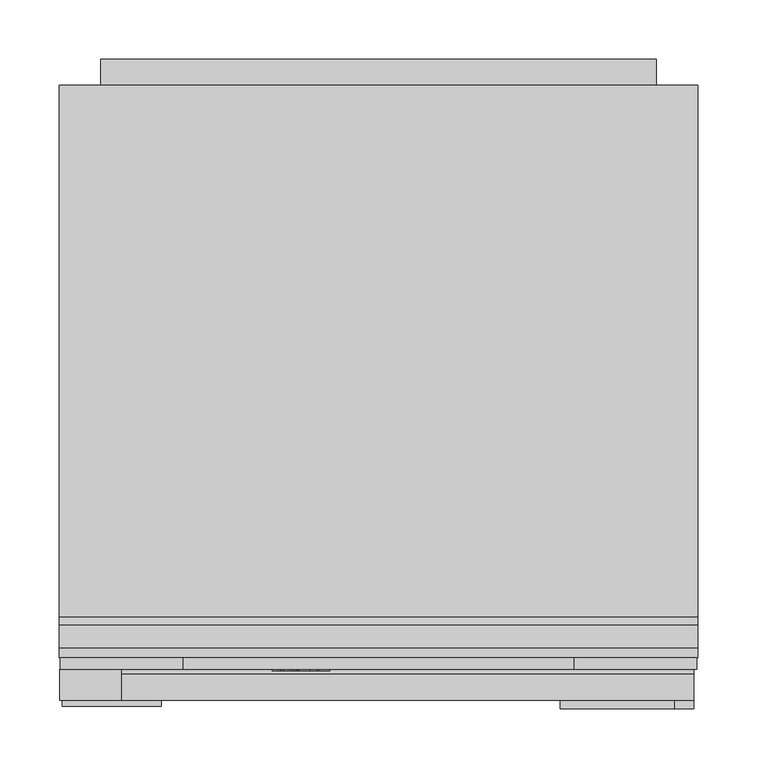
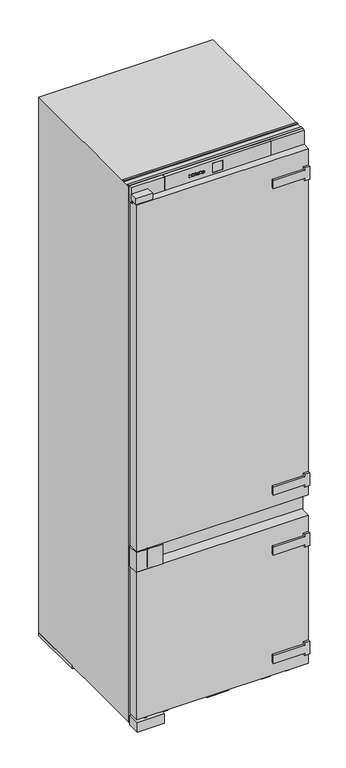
"""IFC4 building model written with IfcOpenShell, lengths in millimetres: proxy geometry, 12445030_CH_KF7731D_LI : 38773106_CH_12445030_KF7731D_LI."""

from ifc_helpers import new_model, si_unit, point, frame, frame_2d, origin, origin_with_axes, place, context, project, spatial, polyline, circle_curve, ellipse_curve, trimmed, segment, composite_curve, outline, extrude, faceted_brep, source, transform, mapped, element, save
from ifc_brep_helpers import plane_surface, cylinder_surface, revolved_surface, extruded_surface, advanced_brep


def specialty_equipment_c5a7a901(model_context):
    return source(origin(), model_context, "Body", "SolidModel", [
        advanced_brep(
        [(-46.64, 32.0, 1742.896), (-46.64, 32.0, 1743.704), (-41.288, 32.0, 1743.704), (-50.6, 32.0, 1743.704), (-48.4, 32.0, 1741.0), (-41.424, 32.0, 1742.896), (-43.84, 32.0, 1742.896), (-45.744, 32.0, 1742.0), (-46.64, 32.0, 1744.728), (-46.64, 32.0, 1745.6), (-45.272, 32.0, 1745.6), (-45.272, 32.0, 1744.728), (-46.64, 33.0, 1742.896), (-45.744, 33.0, 1742.0), (-43.84, 33.0, 1742.896), (-41.424, 33.0, 1742.896), (-48.4, 33.0, 1741.0), (-50.6, 33.0, 1743.704), (-41.288, 33.0, 1743.704), (-46.64, 33.0, 1743.704), (-46.64, 33.0, 1744.728), (-45.272, 33.0, 1744.728), (-45.272, 33.0, 1745.6), (-46.64, 33.0, 1745.6)],
        [
            (0, 1),
            (1, 2),
            (2, 3, ellipse_curve(frame((-45.944, 32.0, 1743.704), z_axis=(0.0, -1.0, 0.0), x_axis=(-1.0, 0.0, 0.0)), 4.656, 3.848)),
            (3, 4, circle_curve(frame((-47.5039564, 32.0, 1743.976), z_axis=(0.0, -1.0, 0.0), x_axis=(0.0, 0.0, -1.0)), 3.1079688)),
            (4, 5, circle_curve(frame((-46.0372064, 32.0, 1746.088), z_axis=(0.0, -1.0, 0.0), x_axis=(0.0, 0.0, -1.0)), 5.6098607)),
            (5, 6),
            (6, 7, circle_curve(frame((-45.3529412, 32.0, 1743.64), z_axis=(0.0, 1.0, 0.0), x_axis=(0.0, 0.0, -1.0)), 1.6859795)),
            (7, 0, circle_curve(frame((-45.744, 32.0, 1742.896), z_axis=(0.0, 1.0, 0.0), x_axis=(0.0, 0.0, -1.0)), 0.896)),
            (8, 9),
            (9, 10, circle_curve(frame((-45.956, 32.0, 1745.6), z_axis=(0.0, 1.0, 0.0), x_axis=(0.0, 0.0, -1.0)), 0.684)),
            (10, 11),
            (11, 8),
            (12, 13, circle_curve(frame((-45.744, 33.0, 1742.896), z_axis=(0.0, -1.0, 0.0), x_axis=(0.0, 0.0, -1.0)), 0.896)),
            (13, 14, circle_curve(frame((-45.3529412, 33.0, 1743.64), z_axis=(0.0, -1.0, 0.0), x_axis=(0.0, 0.0, -1.0)), 1.6859795)),
            (14, 15),
            (15, 16, circle_curve(frame((-46.0372064, 33.0, 1746.088), z_axis=(0.0, 1.0, 0.0), x_axis=(0.0, 0.0, -1.0)), 5.6098607)),
            (16, 17, circle_curve(frame((-47.5039564, 33.0, 1743.976), z_axis=(0.0, 1.0, 0.0), x_axis=(0.0, 0.0, -1.0)), 3.1079688)),
            (17, 18, ellipse_curve(frame((-45.944, 33.0, 1743.704), z_axis=(0.0, 1.0, 0.0), x_axis=(-1.0, 0.0, 0.0)), 4.656, 3.848)),
            (18, 19),
            (19, 12),
            (20, 21),
            (21, 22),
            (22, 23, circle_curve(frame((-45.956, 33.0, 1745.6), z_axis=(0.0, -1.0, 0.0), x_axis=(0.0, 0.0, -1.0)), 0.684)),
            (23, 20),
            (0, 12),
            (19, 1),
            (18, 2),
            (5, 15),
            (14, 6),
            (17, 3),
            (13, 7),
            (16, 4),
            (8, 20),
            (23, 9),
            (22, 10),
            (21, 11),
        ],
        [
            plane_surface(frame((-46.64, 32.0, 1743.704), z_axis=(0.0, -1.0, 0.0), x_axis=(0.0, 0.0, 1.0))),
            plane_surface(frame((-46.64, 33.0, 1743.704), z_axis=(0.0, 1.0, 0.0), x_axis=(0.0, 0.0, -1.0))),
            plane_surface(frame((-46.64, 32.0, 1742.896), z_axis=(1.0, 0.0, 0.0), x_axis=(0.0, 1.0, 0.0))),
            plane_surface(frame((-46.64, 32.0, 1743.704), z_axis=(0.0, 0.0, -1.0), x_axis=(0.0, 1.0, 0.0))),
            plane_surface(frame((-41.424, 32.0, 1742.896), z_axis=(0.0, 0.0, 1.0), x_axis=(0.0, 1.0, 0.0))),
            extruded_surface(trimmed(ellipse_curve(frame((-45.944, 34.0, 1743.704), z_axis=(0.0, -1.0, 0.0), x_axis=(-1.0, 0.0, 0.0)), 4.656, 3.848), [point((-41.288, 34.0, 1743.704))], [point((-50.6, 34.0, 1743.704))], True, "CARTESIAN"), (0.0, -1.0, 0.0), 1.0),
            revolved_surface(polyline([(-45.3529412, 33.0, 1741.9540205), (-45.3529412, 32.0, 1741.9540205)]), (-45.3529412, 33.0, 1743.64), (0.0, 1.0, 0.0)),
            revolved_surface(polyline([(-45.744, 33.0, 1742.0), (-45.744, 32.0, 1742.0)]), (-45.744, 33.0, 1742.896), (0.0, 1.0, 0.0)),
            cylinder_surface(frame((-47.5039564, 33.0, 1743.976), z_axis=(0.0, -1.0, 0.0), x_axis=(0.0, 0.0, -1.0)), 3.1079688),
            cylinder_surface(frame((-46.0372064, 33.0, 1746.088), z_axis=(0.0, -1.0, 0.0), x_axis=(0.0, 0.0, -1.0)), 5.6098607),
            plane_surface(frame((-46.64, 32.0, 1744.728), z_axis=(1.0, 0.0, 0.0), x_axis=(0.0, 1.0, 0.0))),
            revolved_surface(polyline([(-45.956, 33.0, 1744.916), (-45.956, 32.0, 1744.916)]), (-45.956, 33.0, 1745.6), (0.0, 1.0, 0.0)),
            plane_surface(frame((-45.272, 32.0, 1745.6), z_axis=(-1.0, 0.0, 0.0), x_axis=(0.0, 1.0, 0.0))),
            plane_surface(frame((-45.272, 32.0, 1744.728), z_axis=(0.0, 0.0, 1.0), x_axis=(0.0, 1.0, 0.0))),
        ],
        [
            (0, [[1, 2, 3, 4, 5, 6, 7, 8], [9, 10, 11, 12]]),
            (1, [[13, 14, 15, 16, 17, 18, 19, 20], [21, 22, 23, 24]]),
            (2, [[-1, 25, -20, 26]]),
            (3, [[-2, -26, -19, 27]]),
            (4, [[-6, 28, -15, 29]]),
            (5, [[-3, -27, -18, 30]]),
            (6, [[-7, -29, -14, 31]]),
            (7, [[-8, -31, -13, -25]]),
            (8, [[-4, -30, -17, 32]]),
            (9, [[-5, -32, -16, -28]]),
            (10, [[-9, 33, -24, 34]]),
            (11, [[-10, -34, -23, 35]]),
            (12, [[-11, -35, -22, 36]]),
            (13, [[-12, -36, -21, -33]]),
        ],
    ),
        advanced_brep(
        [(-63.336, 32.0, 1742.896), (-63.336, 32.0, 1743.704), (-57.984, 32.0, 1743.704), (-67.296, 32.0, 1743.704), (-65.096, 32.0, 1741.0), (-58.12, 32.0, 1742.896), (-60.536, 32.0, 1742.896), (-62.44, 32.0, 1742.0), (-63.336, 32.0, 1744.728), (-63.336, 32.0, 1745.6), (-61.968, 32.0, 1745.6), (-61.968, 32.0, 1744.728), (-63.336, 33.0, 1742.896), (-62.44, 33.0, 1742.0), (-60.536, 33.0, 1742.896), (-58.12, 33.0, 1742.896), (-65.096, 33.0, 1741.0), (-67.296, 33.0, 1743.704), (-57.984, 33.0, 1743.704), (-63.336, 33.0, 1743.704), (-63.336, 33.0, 1744.728), (-61.968, 33.0, 1744.728), (-61.968, 33.0, 1745.6), (-63.336, 33.0, 1745.6)],
        [
            (0, 1),
            (1, 2),
            (2, 3, ellipse_curve(frame((-62.64, 32.0, 1743.704), z_axis=(0.0, -1.0, 0.0), x_axis=(-1.0, 0.0, 0.0)), 4.656, 3.848)),
            (3, 4, circle_curve(frame((-64.1999564, 32.0, 1743.976), z_axis=(0.0, -1.0, 0.0), x_axis=(0.0, 0.0, -1.0)), 3.1079688)),
            (4, 5, circle_curve(frame((-62.7332064, 32.0, 1746.088), z_axis=(0.0, -1.0, 0.0), x_axis=(0.0, 0.0, -1.0)), 5.6098607)),
            (5, 6),
            (6, 7, circle_curve(frame((-62.0489412, 32.0, 1743.64), z_axis=(0.0, 1.0, 0.0), x_axis=(0.0, 0.0, -1.0)), 1.6859795)),
            (7, 0, circle_curve(frame((-62.44, 32.0, 1742.896), z_axis=(0.0, 1.0, 0.0), x_axis=(0.0, 0.0, -1.0)), 0.896)),
            (8, 9),
            (9, 10, circle_curve(frame((-62.652, 32.0, 1745.6), z_axis=(0.0, 1.0, 0.0), x_axis=(0.0, 0.0, -1.0)), 0.684)),
            (10, 11),
            (11, 8),
            (12, 13, circle_curve(frame((-62.44, 33.0, 1742.896), z_axis=(0.0, -1.0, 0.0), x_axis=(0.0, 0.0, -1.0)), 0.896)),
            (13, 14, circle_curve(frame((-62.0489412, 33.0, 1743.64), z_axis=(0.0, -1.0, 0.0), x_axis=(0.0, 0.0, -1.0)), 1.6859795)),
            (14, 15),
            (15, 16, circle_curve(frame((-62.7332064, 33.0, 1746.088), z_axis=(0.0, 1.0, 0.0), x_axis=(0.0, 0.0, -1.0)), 5.6098607)),
            (16, 17, circle_curve(frame((-64.1999564, 33.0, 1743.976), z_axis=(0.0, 1.0, 0.0), x_axis=(0.0, 0.0, -1.0)), 3.1079688)),
            (17, 18, ellipse_curve(frame((-62.64, 33.0, 1743.704), z_axis=(0.0, 1.0, 0.0), x_axis=(-1.0, 0.0, 0.0)), 4.656, 3.848)),
            (18, 19),
            (19, 12),
            (20, 21),
            (21, 22),
            (22, 23, circle_curve(frame((-62.652, 33.0, 1745.6), z_axis=(0.0, -1.0, 0.0), x_axis=(0.0, 0.0, -1.0)), 0.684)),
            (23, 20),
            (0, 12),
            (19, 1),
            (18, 2),
            (5, 15),
            (14, 6),
            (17, 3),
            (13, 7),
            (16, 4),
            (8, 20),
            (23, 9),
            (22, 10),
            (21, 11),
        ],
        [
            plane_surface(frame((-63.336, 32.0, 1743.704), z_axis=(0.0, -1.0, 0.0), x_axis=(0.0, 0.0, 1.0))),
            plane_surface(frame((-63.336, 33.0, 1743.704), z_axis=(0.0, 1.0, 0.0), x_axis=(0.0, 0.0, -1.0))),
            plane_surface(frame((-63.336, 32.0, 1742.896), z_axis=(1.0, 0.0, 0.0), x_axis=(0.0, 1.0, 0.0))),
            plane_surface(frame((-63.336, 32.0, 1743.704), z_axis=(0.0, 0.0, -1.0), x_axis=(0.0, 1.0, 0.0))),
            plane_surface(frame((-58.12, 32.0, 1742.896), z_axis=(0.0, 0.0, 1.0), x_axis=(0.0, 1.0, 0.0))),
            extruded_surface(trimmed(ellipse_curve(frame((-62.64, 34.0, 1743.704), z_axis=(0.0, -1.0, 0.0), x_axis=(-1.0, 0.0, 0.0)), 4.656, 3.848), [point((-57.984, 34.0, 1743.704))], [point((-67.296, 34.0, 1743.704))], True, "CARTESIAN"), (0.0, -1.0, 0.0), 1.0),
            revolved_surface(polyline([(-62.0489412, 33.0, 1741.9540205), (-62.0489412, 32.0, 1741.9540205)]), (-62.0489412, 33.0, 1743.64), (0.0, 1.0, 0.0)),
            revolved_surface(polyline([(-62.44, 33.0, 1742.0), (-62.44, 32.0, 1742.0)]), (-62.44, 33.0, 1742.896), (0.0, 1.0, 0.0)),
            cylinder_surface(frame((-64.1999564, 33.0, 1743.976), z_axis=(0.0, -1.0, 0.0), x_axis=(0.0, 0.0, -1.0)), 3.1079688),
            cylinder_surface(frame((-62.7332064, 33.0, 1746.088), z_axis=(0.0, -1.0, 0.0), x_axis=(0.0, 0.0, -1.0)), 5.6098607),
            plane_surface(frame((-63.336, 32.0, 1744.728), z_axis=(1.0, 0.0, 0.0), x_axis=(0.0, 1.0, 0.0))),
            revolved_surface(polyline([(-62.652, 33.0, 1744.916), (-62.652, 32.0, 1744.916)]), (-62.652, 33.0, 1745.6), (0.0, 1.0, 0.0)),
            plane_surface(frame((-61.968, 32.0, 1745.6), z_axis=(-1.0, 0.0, 0.0), x_axis=(0.0, 1.0, 0.0))),
            plane_surface(frame((-61.968, 32.0, 1744.728), z_axis=(0.0, 0.0, 1.0), x_axis=(0.0, 1.0, 0.0))),
        ],
        [
            (0, [[1, 2, 3, 4, 5, 6, 7, 8], [9, 10, 11, 12]]),
            (1, [[13, 14, 15, 16, 17, 18, 19, 20], [21, 22, 23, 24]]),
            (2, [[-1, 25, -20, 26]]),
            (3, [[-2, -26, -19, 27]]),
            (4, [[-6, 28, -15, 29]]),
            (5, [[-3, -27, -18, 30]]),
            (6, [[-7, -29, -14, 31]]),
            (7, [[-8, -31, -13, -25]]),
            (8, [[-4, -30, -17, 32]]),
            (9, [[-5, -32, -16, -28]]),
            (10, [[-9, 33, -24, 34]]),
            (11, [[-10, -34, -23, 35]]),
            (12, [[-11, -35, -22, 36]]),
            (13, [[-12, -36, -21, -33]]),
        ],
    ),
        extrude(outline(polyline([(1748.528, -72.08), (1747.232, -71.472), (1748.496, -68.76), (1749.792, -69.36), (1748.528, -72.08)])), frame((0.0, 32.0, 0.0), z_axis=(0.0, 1.0, 0.0), x_axis=(0.0, 0.0, 1.0)), (0.0, 0.0, 1.0), 1.0),
        extrude(outline(polyline([(1747.056, -74.056), (1745.624, -74.056), (1745.624, -73.104), (1742.344, -73.104), (1742.344, -74.056), (1741.0, -74.056), (1741.0, -67.744), (1742.344, -67.744), (1742.344, -68.672), (1747.056, -68.672), (1747.056, -74.056)])), frame((0.0, 32.0, 0.0), z_axis=(0.0, 1.0, 0.0), x_axis=(0.0, 0.0, 1.0)), (0.0, 0.0, 1.0), 1.0),
        extrude(outline(polyline([(1747.696, -57.536), (1747.696, -56.576), (1742.344, -56.576), (1742.344, -57.536), (1741.0, -57.536), (1741.0, -51.048), (1742.344, -51.048), (1742.344, -52.032), (1749.0, -52.032), (1749.0, -57.536), (1747.696, -57.536)])), frame((0.0, 32.0, 0.0), z_axis=(0.0, 1.0, 0.0), x_axis=(0.0, 0.0, 1.0)), (0.0, 0.0, 1.0), 1.0),
        extrude(outline(polyline([(1747.696, -90.0), (1747.696, -89.032), (1742.344, -89.032), (1742.344, -90.0), (1741.0, -90.0), (1741.0, -86.48), (1742.344, -86.48), (1742.344, -87.44), (1745.7471247, -87.44), (1741.0, -83.864), (1745.8152223, -80.272), (1742.344, -80.272), (1742.344, -81.256), (1741.0, -81.256), (1741.0, -74.872), (1742.344, -74.872), (1742.344, -75.888), (1747.696, -75.888), (1747.696, -74.872), (1749.0, -74.872), (1749.0, -79.744), (1746.0, -82.08), (1749.0, -84.424), (1749.0, -90.0), (1747.696, -90.0)])), frame((0.0, 32.0, 0.0), z_axis=(0.0, 1.0, 0.0), x_axis=(0.0, 0.0, 1.0)), (0.0, 0.0, 1.0), 1.0),
        extrude(outline(polyline([(470.0, 250.5), (462.0, 250.5), (462.0, 153.5), (436.0, 153.5), (436.0, 250.5), (428.0, 250.5), (428.0, 266.5), (470.0, 266.5), (470.0, 250.5)])), frame((0.0, 0.0, 0.0), z_axis=(0.0, 1.0, 0.0), x_axis=(0.0, 0.0, 1.0)), (0.0, 0.0, 1.0), 7.0),
        extrude(outline(polyline([(114.0, 250.5), (106.0, 250.5), (106.0, 153.5), (80.0, 153.5), (80.0, 250.5), (72.0, 250.5), (72.0, 266.5), (114.0, 266.5), (114.0, 250.5)])), frame((0.0, 0.0, 0.0), z_axis=(0.0, 1.0, 0.0), x_axis=(0.0, 0.0, 1.0)), (0.0, 0.0, 1.0), 7.0),
        extrude(outline(polyline([(1673.0, 250.5), (1665.0, 250.5), (1665.0, 153.5), (1639.0, 153.5), (1639.0, 250.5), (1631.0, 250.5), (1631.0, 266.5), (1673.0, 266.5), (1673.0, 250.5)])), frame((0.0, 0.0, 0.0), z_axis=(0.0, 1.0, 0.0), x_axis=(0.0, 0.0, 1.0)), (0.0, 0.0, 1.0), 7.0),
        extrude(outline(polyline([(667.0, 250.5), (659.0, 250.5), (659.0, 153.5), (633.0, 153.5), (633.0, 250.5), (625.0, 250.5), (625.0, 266.5), (667.0, 266.5), (667.0, 250.5)])), frame((0.0, 0.0, 0.0), z_axis=(0.0, 1.0, 0.0), x_axis=(0.0, 0.0, 1.0)), (0.0, 0.0, 1.0), 7.0),
        extrude(outline(polyline([(-267.5, 43.0), (-183.5, 43.0), (-183.5, 2.0), (-267.5, 2.0), (-267.5, 43.0)])), frame((0.0, 0.0, 1.0), z_axis=(0.0, 0.0, 1.0), x_axis=(1.0, 0.0, 0.0)), (0.0, 0.0, 1.0), 31.0),
        extrude(outline(polyline([(-217.5, 7.0), (-269.5, 7.0), (-269.5, 33.0), (-217.5, 33.0), (-217.5, 7.0)])), frame((0.0, 0.0, 1730.0), z_axis=(0.0, 0.0, 1.0), x_axis=(1.0, 0.0, 0.0)), (0.0, 0.0, 1.0), 19.0),
        extrude(outline(polyline([(7.0, 590.0), (7.0, 1727.0), (29.0, 1727.0), (29.0, 1715.0), (43.0, 1715.0), (43.0, 590.0), (7.0, 590.0)])), frame((-266.5, 0.0, 0.0), z_axis=(1.0, 0.0, 0.0), x_axis=(0.0, 1.0, 0.0)), (0.0, 0.0, 1.0), 533.0),
        extrude(outline(polyline([(-186.5, 7.0), (-268.5, 7.0), (-268.5, 43.0), (-186.5, 43.0), (-186.5, 7.0)]), holes=[composite_curve([segment(trimmed(circle_curve(frame_2d((-236.5, 16.0)), 6.0), [point((-230.5, 16.0))], [point((-242.5, 16.0))], True, "CARTESIAN"), True, "CONTINUOUS"), segment(trimmed(circle_curve(frame_2d((-236.5, 16.0)), 6.0), [point((-242.5, 16.0))], [point((-230.5, 16.0))], True, "CARTESIAN"), True, "CONTINUOUS")], self_intersect=False)]), frame((0.0, 0.0, 523.0), z_axis=(0.0, 0.0, 1.0), x_axis=(1.0, 0.0, 0.0)), (0.0, 0.0, 1.0), 64.0),
        extrude(outline(polyline([(-266.5, 43.0), (266.5, 43.0), (266.5, 7.0), (-266.5, 7.0), (-266.5, 43.0)])), frame((0.0, 0.0, 38.0), z_axis=(0.0, 0.0, 1.0), x_axis=(1.0, 0.0, 0.0)), (0.0, 0.0, 1.0), 485.0),
        extrude(outline(composite_curve([segment(trimmed(circle_curve(frame_2d((-236.5, 16.0)), 6.0), [point((-236.5, 22.0))], [point((-236.5, 10.0))], False, "CARTESIAN"), True, "CONTINUOUS"), segment(trimmed(circle_curve(frame_2d((-236.5, 16.0)), 6.0), [point((-236.5, 10.0))], [point((-236.5, 22.0))], False, "CARTESIAN"), True, "CONTINUOUS")], self_intersect=False)), frame((0.0, 0.0, 1727.0), z_axis=(0.0, 0.0, 1.0), x_axis=(1.0, 0.0, 0.0)), (0.0, 0.0, 1.0), 3.0),
        extrude(outline(composite_curve([segment(trimmed(circle_curve(frame_2d((-236.5, 16.0)), 6.0), [point((-230.5, 16.0))], [point((-242.5, 16.0))], False, "CARTESIAN"), True, "CONTINUOUS"), segment(trimmed(circle_curve(frame_2d((-236.5, 16.0)), 6.0), [point((-242.5, 16.0))], [point((-230.5, 16.0))], False, "CARTESIAN"), True, "CONTINUOUS")], self_intersect=False)), frame((0.0, 0.0, 32.0), z_axis=(0.0, 0.0, 1.0), x_axis=(1.0, 0.0, 0.0)), (0.0, 0.0, 1.0), 6.0),
        extrude(outline(composite_curve([segment(trimmed(circle_curve(frame_2d((-236.5, 16.0)), 6.0), [point((-230.5, 16.0))], [point((-242.5, 16.0))], False, "CARTESIAN"), True, "CONTINUOUS"), segment(trimmed(circle_curve(frame_2d((-236.5, 16.0)), 6.0), [point((-242.5, 16.0))], [point((-230.5, 16.0))], False, "CARTESIAN"), True, "CONTINUOUS")], self_intersect=False)), frame((0.0, 0.0, 523.0), z_axis=(0.0, 0.0, 1.0), x_axis=(1.0, 0.0, 0.0)), (0.0, 0.0, 1.0), 67.0),
        faceted_brep([(165.0, 33.0, 1770.0), (-165.0, 33.0, 1770.0), (-165.0, 33.0, 1721.0), (165.0, 33.0, 1721.0), (15.0, 33.0, 1761.0), (15.0, 33.0, 1731.0), (-15.0, 33.0, 1731.0), (-15.0, 33.0, 1761.0), (165.0, 43.0, 1770.0), (165.0, 43.0, 1721.0), (-165.0, 43.0, 1721.0), (-165.0, 43.0, 1770.0), (15.0, 34.0, 1761.0), (-15.0, 34.0, 1761.0), (-15.0, 34.0, 1731.0), (15.0, 34.0, 1731.0)], [[[0, 1, 2, 3], [4, 5, 6, 7]], [[8, 9, 10, 11]], [[0, 3, 9, 8]], [[3, 2, 10, 9]], [[2, 1, 11, 10]], [[1, 0, 8, 11]], [[12, 13, 14, 15]], [[12, 15, 5, 4]], [[15, 14, 6, 5]], [[14, 13, 7, 6]], [[13, 12, 4, 7]]]),
        extrude(outline(polyline([(165.0, 43.0), (269.0, 43.0), (269.0, 33.0), (165.0, 33.0), (165.0, 43.0)])), frame((0.0, 0.0, 1721.0), z_axis=(0.0, 0.0, 1.0), x_axis=(1.0, 0.0, 0.0)), (0.0, 0.0, 1.0), 49.0),
        extrude(outline(polyline([(-269.0, 43.0), (-165.0, 43.0), (-165.0, 33.0), (-269.0, 33.0), (-269.0, 43.0)])), frame((0.0, 0.0, 1721.0), z_axis=(0.0, 0.0, 1.0), x_axis=(1.0, 0.0, 0.0)), (0.0, 0.0, 1.0), 49.0),
        extrude(outline(polyline([(-15.0, 34.0), (15.0, 34.0), (15.0, 33.0), (-15.0, 33.0), (-15.0, 34.0)])), frame((0.0, 0.0, 1731.0), z_axis=(0.0, 0.0, 1.0), x_axis=(1.0, 0.0, 0.0)), (0.0, 0.0, 1.0), 30.0),
        extrude(outline(polyline([(1647.0, -235.0), (27.0, -235.0), (27.0, 235.0), (130.0, 235.0), (130.0, 180.0), (160.0, 180.0), (160.0, 235.0), (1647.0, 235.0), (1647.0, -235.0)])), frame((0.0, 527.0, 0.0), z_axis=(0.0, 1.0, 0.0), x_axis=(0.0, 0.0, 1.0)), (0.0, 0.0, 1.0), 22.0),
        extrude(outline(polyline([(-144.929185, 51.0), (-174.0, 51.0), (-194.6983363, 347.0), (-165.6275213, 347.0), (-144.929185, 51.0)])), origin_with_axes(), (0.0, 0.0, 1.0), 10.0),
        extrude(outline(polyline([(144.929185, 51.0), (165.6275213, 347.0), (194.6983363, 347.0), (174.0, 51.0), (144.929185, 51.0)])), origin_with_axes(), (0.0, 0.0, 1.0), 10.0),
        extrude(outline(polyline([(540.4384039, 149.874164), (547.6647626, 149.874164), (547.6647626, 139.824714), (540.2826236, 139.824714), (540.2826236, 141.0836119), (546.4056247, 141.0836119), (546.4056247, 144.3750411), (540.7614845, 144.3750411), (540.7614845, 145.6249589), (546.4056247, 145.6249589), (546.4056247, 148.6148402), (540.4384039, 148.6148402), (540.4384039, 149.874164)])), frame((194.0, 0.0, 0.0), z_axis=(1.0, 0.0, 0.0), x_axis=(0.0, 1.0, 0.0)), (0.0, 0.0, 1.0), 1.0),
        extrude(outline(polyline([(537.1383052, 149.8716162), (538.399354, 149.8716162), (538.399354, 139.824714), (532.1225656, 139.824714), (532.1225656, 141.0927041), (537.1383052, 141.0927041), (537.1383052, 149.8716162)])), frame((194.0, 0.0, 0.0), z_axis=(1.0, 0.0, 0.0), x_axis=(0.0, 1.0, 0.0)), (0.0, 0.0, 1.0), 1.0),
        advanced_brep(
        [(232.5, 527.0, 145.0), (217.5, 527.0, 145.0), (232.5, 548.5, 145.0), (217.5, 533.5, 145.0), (195.0, 548.5, 145.0), (195.0, 533.5, 145.0)],
        [
            (0, 1, circle_curve(frame((225.0, 527.0, 145.0), z_axis=(0.0, -1.0, 0.0), x_axis=(-1.0, 0.0, 0.0)), 7.5)),
            (1, 0, circle_curve(frame((225.0, 527.0, 145.0), z_axis=(0.0, -1.0, 0.0), x_axis=(-1.0, 0.0, 0.0)), 7.5)),
            (0, 2),
            (2, 3, ellipse_curve(frame((225.0, 541.0, 145.0), z_axis=(0.7071067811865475, -0.7071067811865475, 0.0), x_axis=(-0.7071067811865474, -0.7071067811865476, 0.0)), 10.6066017, 7.5)),
            (3, 1),
            (3, 2, ellipse_curve(frame((225.0, 541.0, 145.0), z_axis=(0.7071067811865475, -0.7071067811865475, 0.0), x_axis=(-0.7071067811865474, -0.7071067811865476, 0.0)), 10.6066017, 7.5)),
            (4, 5, circle_curve(frame((195.0, 541.0, 145.0), z_axis=(-1.0, 0.0, 0.0), x_axis=(0.0, -1.0, 0.0)), 7.5)),
            (5, 4, circle_curve(frame((195.0, 541.0, 145.0), z_axis=(-1.0, 0.0, 0.0), x_axis=(0.0, -1.0, 0.0)), 7.5)),
            (2, 4),
            (5, 3),
        ],
        [
            plane_surface(frame((225.0, 527.0, 145.0), z_axis=(0.0, -1.0, 0.0), x_axis=(0.0, 0.0, 1.0))),
            cylinder_surface(frame((225.0, 527.0, 145.0), z_axis=(0.0, -1.0, 0.0), x_axis=(-1.0, 0.0, 0.0)), 7.5),
            plane_surface(frame((195.0, 541.0, 145.0), z_axis=(-1.0, 0.0, 0.0), x_axis=(0.0, 0.0, 1.0))),
            cylinder_surface(frame((225.0, 541.0, 145.0), z_axis=(1.0, 0.0, 0.0), x_axis=(0.0, -1.0, 0.0)), 7.5),
        ],
        [
            (0, [[1, 2]]),
            (1, [[-1, 3, 4, 5]]),
            (1, [[-2, -5, 6, -3]]),
            (2, [[7, 8]]),
            (3, [[-4, 9, -8, 10]]),
            (3, [[-6, -10, -7, -9]]),
        ],
    ),
        extrude(outline(polyline([(-34.0, 43.0), (34.0, 43.0), (34.0, 34.0), (-34.0, 34.0), (-34.0, 43.0)])), frame((0.0, 0.0, 13.0), z_axis=(0.0, 0.0, 1.0), x_axis=(1.0, 0.0, 0.0)), (0.0, 0.0, 1.0), 19.0),
        extrude(outline(polyline([(270.0, 51.0), (270.0, 43.0), (-270.0, 43.0), (-270.0, 51.0), (270.0, 51.0)])), frame((0.0, 0.0, 1767.0), z_axis=(0.0, 0.0, 1.0), x_axis=(1.0, 0.0, 0.0)), (0.0, 0.0, 1.0), 3.0),
        extrude(outline(polyline([(270.0, 77.0), (270.0, 71.0), (-270.0, 71.0), (-270.0, 77.0), (270.0, 77.0)])), frame((0.0, 0.0, 1767.0), z_axis=(0.0, 0.0, 1.0), x_axis=(1.0, 0.0, 0.0)), (0.0, 0.0, 1.0), 3.0),
        extrude(outline(polyline([(-234.0, 43.0), (-234.0, 489.0), (234.0, 489.0), (234.0, 43.0), (-234.0, 43.0)])), frame((0.0, 0.0, 814.0), z_axis=(0.0, 0.0, 1.0), x_axis=(1.0, 0.0, 0.0)), (0.0, 0.0, 1.0), 3.0),
        extrude(outline(polyline([(-209.0, 311.0), (-209.0, 450.0), (209.0, 450.0), (209.0, 311.0), (-209.0, 311.0)])), frame((0.0, 0.0, 93.0), z_axis=(0.0, 0.0, 1.0), x_axis=(1.0, 0.0, 0.0)), (0.0, 0.0, 1.0), 200.0),
        extrude(outline(composite_curve([segment(trimmed(circle_curve(frame_2d((228.0, 63.0)), 11.0), [point((239.0, 63.0))], [point((217.0, 63.0))], False, "CARTESIAN"), True, "CONTINUOUS"), segment(trimmed(circle_curve(frame_2d((228.0, 63.0)), 11.0), [point((217.0, 63.0))], [point((239.0, 63.0))], False, "CARTESIAN"), True, "CONTINUOUS")], self_intersect=False)), origin_with_axes(), (0.0, 0.0, 1.0), 10.0),
        extrude(outline(composite_curve([segment(trimmed(circle_curve(frame_2d((-228.0, 63.0)), 11.0), [point((-217.0, 63.0))], [point((-239.0, 63.0))], False, "CARTESIAN"), True, "CONTINUOUS"), segment(trimmed(circle_curve(frame_2d((-228.0, 63.0)), 11.0), [point((-239.0, 63.0))], [point((-217.0, 63.0))], False, "CARTESIAN"), True, "CONTINUOUS")], self_intersect=False)), origin_with_axes(), (0.0, 0.0, 1.0), 10.0),
        extrude(outline(polyline([(270.0, 527.0), (270.0, 347.0), (-270.0, 347.0), (-270.0, 527.0), (270.0, 527.0)])), origin_with_axes(), (0.0, 0.0, 1.0), 10.0),
        faceted_brep([(270.0, 527.0, 1767.0), (-270.0, 527.0, 1767.0), (-270.0, 43.0, 1767.0), (270.0, 43.0, 1767.0), (270.0, 527.0, 10.0), (270.0, 43.0, 10.0), (-270.0, 43.0, 10.0), (-270.0, 527.0, 10.0), (234.0, 43.0, 1692.0), (234.0, 43.0, 619.0), (-234.0, 43.0, 619.0), (-234.0, 43.0, 1692.0), (209.0, 43.0, 473.0), (209.0, 43.0, 93.0), (-209.0, 43.0, 93.0), (-209.0, 43.0, 473.0), (234.0, 489.0, 1692.0), (-234.0, 489.0, 1692.0), (-234.0, 489.0, 619.0), (234.0, 489.0, 619.0), (209.0, 450.0, 473.0), (209.0, 450.0, 93.0), (-209.0, 450.0, 473.0), (-209.0, 450.0, 93.0)], [[[0, 1, 2, 3]], [[4, 5, 6, 7]], [[1, 0, 4, 7]], [[2, 1, 7, 6]], [[3, 2, 6, 5], [8, 9, 10, 11], [12, 13, 14, 15]], [[0, 3, 5, 4]], [[16, 17, 18, 19]], [[16, 19, 9, 8]], [[19, 18, 10, 9]], [[18, 17, 11, 10]], [[17, 16, 8, 11]], [[20, 21, 13, 12]], [[22, 15, 14, 23]], [[21, 20, 22, 23]], [[13, 21, 23, 14]], [[20, 12, 15, 22]]]),
    ])


if __name__ == "__main__":
    model = new_model("IFC4")
    model_context = context("Model", 3, world=origin())
    ifc_project = project(units=[si_unit("LENGTHUNIT", "METRE", prefix="MILLI")], contexts=[model_context])
    site = spatial("IfcSite", under=ifc_project)
    building = spatial("IfcBuilding", under=site)
    placement = place(None, origin())
    specialty_equipment_shape = specialty_equipment_c5a7a901(model_context)
    element("IfcBuildingElementProxy", 1, Name="12445030_CH_KF7731D_LI : 38773106_CH_12445030_KF7731D_LI", ObjectType="12445030_CH_KF7731D_LI : 38773106_CH_12445030_KF7731D_LI", at=placement, inside=building, context=model_context, shape_type="MappedRepresentation", body=[
        mapped(specialty_equipment_shape, transform((0.0, 0.0, 0.0), x_axis=(1.0, 0.0, 0.0), y_axis=(0.0, 1.0, 0.0), z_axis=(0.0, 0.0, 1.0))),
    ])
    save(model, "model.ifc")
